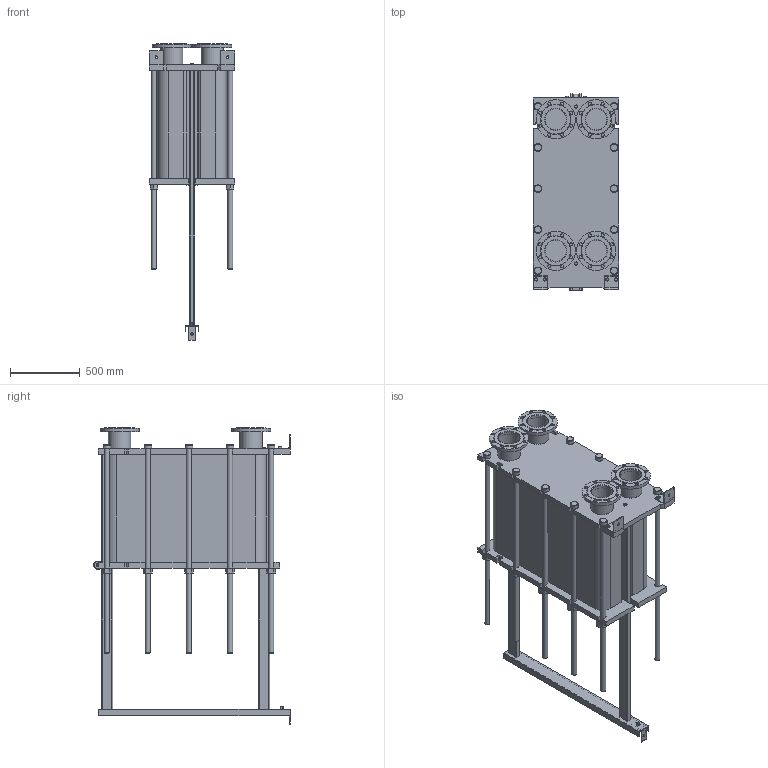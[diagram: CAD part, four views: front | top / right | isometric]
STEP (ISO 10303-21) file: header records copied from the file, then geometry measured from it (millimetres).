
FILE_DESCRIPTION(/* description */ (''),/* implementation_level */ '2;1');
FILE_NAME(/* name */ 'C:\Users\zhuro\Desktop\ENCO\TO\ЭН-041\ЭН-0,5-041-224-1.stp',/* time_stamp */ '2022-06-06T11:07:35+03:00',/* author */ ('zhuro'),/* organization */ (''),/* preprocessor_version */ 'ST-DEVELOPER v18.1',/* originating_system */ 'Autodesk Inventor 2022',/* authorisation */ '');
FILE_SCHEMA (('AUTOMOTIVE_DESIGN { 1 0 10303 214 3 1 1 }'));
Length unit declared in the file: millimetre
Products named in the file (1): ЭН-0,5-041-224-1
Bounding box: 610 x 1406.5 x 2120 mm (x, y, z)
Volume: 523838478.2 mm3; surface area: 11758609.4 mm2
Topology: 52 solids, 52 shells, 711 faces, 1696 edges, 1094 vertices
Faces by surface type: plane 487, cylinder 177, cone 41, torus 6
Full cylindrical faces by diameter (mm): 8 x4, 10 x2, 16 x8, 18 x3, 22 x32, 36 x24, 50 x1, 54 x10, 60 x12, 151 x4, 161 x8, 280 x4
Entity records: 22667 total; most frequent: CARTESIAN_POINT 5230, DIRECTION 3644, ORIENTED_EDGE 3392, EDGE_CURVE 1696, AXIS2_PLACEMENT_3D 1272, LINE 1100, VECTOR 1100, VERTEX_POINT 1094
